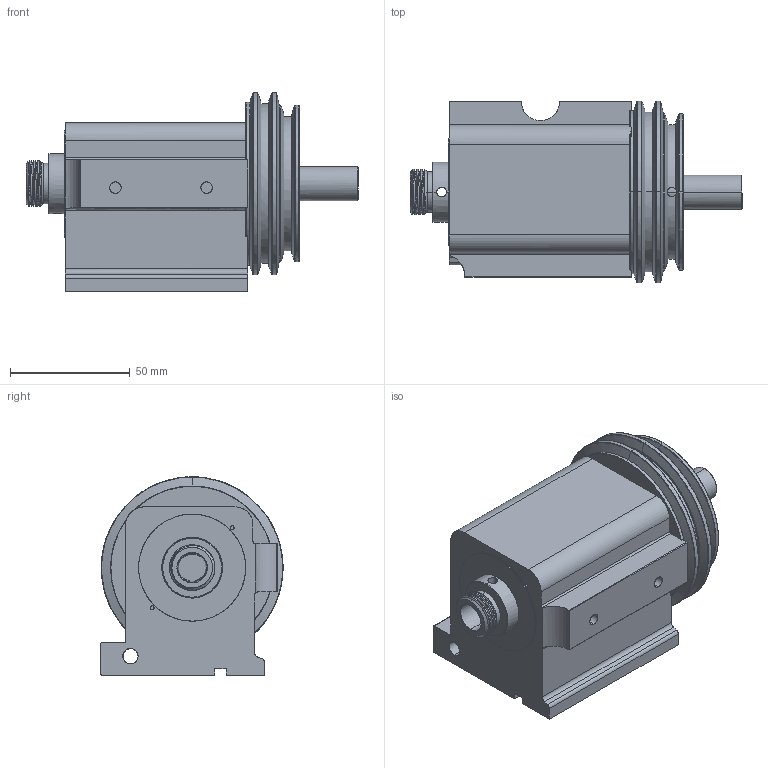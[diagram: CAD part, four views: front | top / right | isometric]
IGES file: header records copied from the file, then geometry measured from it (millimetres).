
Start section: Comment
Global section: file name: 30100.igs; native system:  By Spatial Corp.; preprocessor: XPlus PS/IGES 3.0; author: Author; organization: Title; date: 20180306.085816; units: inch
Bounding box: 138.68 x 76.05 x 82.93 mm (x, y, z)
Surface area: 78892.6 mm2 (no closed solid volume)
Topology: 0 solids, 0 shells, 282 faces, 1388 edges, 1388 vertices
Faces by surface type: revolution 206, extrusion 63, bspline 13
